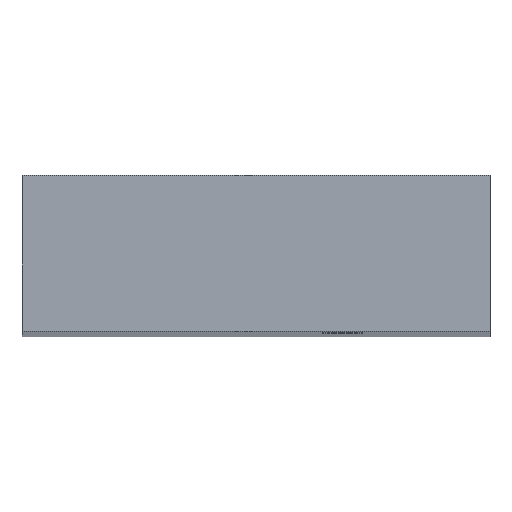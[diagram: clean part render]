
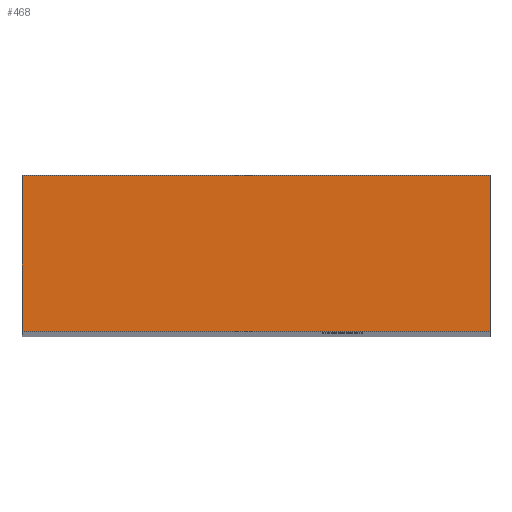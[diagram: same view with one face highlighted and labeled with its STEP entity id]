
A CAD part, top view. The second image highlights one B-rep face of the part: STEP entity #468.
In plain terms, the highlighted planar face has unit normal (0, 0, 1).
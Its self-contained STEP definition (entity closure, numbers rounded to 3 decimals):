
#44 = PLANE('',#45);
#45 = AXIS2_PLACEMENT_3D('',#46,#47,#48);
#46 = CARTESIAN_POINT('',(-80.,34.,140.));
#47 = DIRECTION('',(1.,0.,0.));
#48 = DIRECTION('',(0.,0.,-1.));
#72 = PLANE('',#73);
#73 = AXIS2_PLACEMENT_3D('',#74,#75,#76);
#74 = CARTESIAN_POINT('',(-53.,16.,-30.));
#75 = DIRECTION('',(0.,-1.,0.));
#76 = DIRECTION('',(1.,0.,0.));
#100 = PLANE('',#101);
#101 = AXIS2_PLACEMENT_3D('',#102,#103,#104);
#102 = CARTESIAN_POINT('',(-26.,34.,-200.));
#103 = DIRECTION('',(-1.,0.,0.));
#104 = DIRECTION('',(0.,0.,1.));
#126 = PLANE('',#127);
#127 = AXIS2_PLACEMENT_3D('',#128,#129,#130);
#128 = CARTESIAN_POINT('',(-53.,34.,-30.));
#129 = DIRECTION('',(0.,-1.,0.));
#130 = DIRECTION('',(1.,0.,0.));
#141 = EDGE_CURVE('',#142,#144,#146,.T.);
#142 = VERTEX_POINT('',#143);
#143 = CARTESIAN_POINT('',(-80.,34.,140.));
#144 = VERTEX_POINT('',#145);
#145 = CARTESIAN_POINT('',(-80.,16.,140.));
#146 = SURFACE_CURVE('',#147,(#151,#158),.PCURVE_S1.);
#147 = LINE('',#148,#149);
#148 = CARTESIAN_POINT('',(-80.,34.,140.));
#149 = VECTOR('',#150,1.);
#150 = DIRECTION('',(0.,-1.,0.));
#151 = PCURVE('',#44,#152);
#152 = DEFINITIONAL_REPRESENTATION('',(#153),#157);
#153 = LINE('',#154,#155);
#154 = CARTESIAN_POINT('',(0.,0.));
#155 = VECTOR('',#156,1.);
#156 = DIRECTION('',(0.,-1.));
#157 = ( GEOMETRIC_REPRESENTATION_CONTEXT(2) 
PARAMETRIC_REPRESENTATION_CONTEXT() REPRESENTATION_CONTEXT('2D SPACE',''
  ) );
#158 = PCURVE('',#159,#164);
#159 = PLANE('',#160);
#160 = AXIS2_PLACEMENT_3D('',#161,#162,#163);
#161 = CARTESIAN_POINT('',(-26.,34.,140.));
#162 = DIRECTION('',(0.,0.,-1.));
#163 = DIRECTION('',(-1.,0.,0.));
#164 = DEFINITIONAL_REPRESENTATION('',(#165),#169);
#165 = LINE('',#166,#167);
#166 = CARTESIAN_POINT('',(54.,0.));
#167 = VECTOR('',#168,1.);
#168 = DIRECTION('',(0.,-1.));
#169 = ( GEOMETRIC_REPRESENTATION_CONTEXT(2) 
PARAMETRIC_REPRESENTATION_CONTEXT() REPRESENTATION_CONTEXT('2D SPACE',''
  ) );
#219 = VERTEX_POINT('',#220);
#220 = CARTESIAN_POINT('',(-26.,16.,140.));
#241 = EDGE_CURVE('',#242,#219,#244,.T.);
#242 = VERTEX_POINT('',#243);
#243 = CARTESIAN_POINT('',(-26.,34.,140.));
#244 = SURFACE_CURVE('',#245,(#249,#256),.PCURVE_S1.);
#245 = LINE('',#246,#247);
#246 = CARTESIAN_POINT('',(-26.,34.,140.));
#247 = VECTOR('',#248,1.);
#248 = DIRECTION('',(0.,-1.,0.));
#249 = PCURVE('',#100,#250);
#250 = DEFINITIONAL_REPRESENTATION('',(#251),#255);
#251 = LINE('',#252,#253);
#252 = CARTESIAN_POINT('',(340.,0.));
#253 = VECTOR('',#254,1.);
#254 = DIRECTION('',(0.,-1.));
#255 = ( GEOMETRIC_REPRESENTATION_CONTEXT(2) 
PARAMETRIC_REPRESENTATION_CONTEXT() REPRESENTATION_CONTEXT('2D SPACE',''
  ) );
#256 = PCURVE('',#159,#257);
#257 = DEFINITIONAL_REPRESENTATION('',(#258),#262);
#258 = LINE('',#259,#260);
#259 = CARTESIAN_POINT('',(0.,0.));
#260 = VECTOR('',#261,1.);
#261 = DIRECTION('',(0.,-1.));
#262 = ( GEOMETRIC_REPRESENTATION_CONTEXT(2) 
PARAMETRIC_REPRESENTATION_CONTEXT() REPRESENTATION_CONTEXT('2D SPACE',''
  ) );
#290 = EDGE_CURVE('',#242,#142,#291,.T.);
#291 = SURFACE_CURVE('',#292,(#296,#303),.PCURVE_S1.);
#292 = LINE('',#293,#294);
#293 = CARTESIAN_POINT('',(-26.,34.,140.));
#294 = VECTOR('',#295,1.);
#295 = DIRECTION('',(-1.,0.,0.));
#296 = PCURVE('',#126,#297);
#297 = DEFINITIONAL_REPRESENTATION('',(#298),#302);
#298 = LINE('',#299,#300);
#299 = CARTESIAN_POINT('',(27.,170.));
#300 = VECTOR('',#301,1.);
#301 = DIRECTION('',(-1.,0.));
#302 = ( GEOMETRIC_REPRESENTATION_CONTEXT(2) 
PARAMETRIC_REPRESENTATION_CONTEXT() REPRESENTATION_CONTEXT('2D SPACE',''
  ) );
#303 = PCURVE('',#159,#304);
#304 = DEFINITIONAL_REPRESENTATION('',(#305),#309);
#305 = LINE('',#306,#307);
#306 = CARTESIAN_POINT('',(0.,0.));
#307 = VECTOR('',#308,1.);
#308 = DIRECTION('',(1.,0.));
#309 = ( GEOMETRIC_REPRESENTATION_CONTEXT(2) 
PARAMETRIC_REPRESENTATION_CONTEXT() REPRESENTATION_CONTEXT('2D SPACE',''
  ) );
#387 = EDGE_CURVE('',#219,#144,#388,.T.);
#388 = SURFACE_CURVE('',#389,(#393,#400),.PCURVE_S1.);
#389 = LINE('',#390,#391);
#390 = CARTESIAN_POINT('',(-26.,16.,140.));
#391 = VECTOR('',#392,1.);
#392 = DIRECTION('',(-1.,0.,0.));
#393 = PCURVE('',#72,#394);
#394 = DEFINITIONAL_REPRESENTATION('',(#395),#399);
#395 = LINE('',#396,#397);
#396 = CARTESIAN_POINT('',(27.,170.));
#397 = VECTOR('',#398,1.);
#398 = DIRECTION('',(-1.,0.));
#399 = ( GEOMETRIC_REPRESENTATION_CONTEXT(2) 
PARAMETRIC_REPRESENTATION_CONTEXT() REPRESENTATION_CONTEXT('2D SPACE',''
  ) );
#400 = PCURVE('',#159,#401);
#401 = DEFINITIONAL_REPRESENTATION('',(#402),#406);
#402 = LINE('',#403,#404);
#403 = CARTESIAN_POINT('',(0.,-18.));
#404 = VECTOR('',#405,1.);
#405 = DIRECTION('',(1.,0.));
#406 = ( GEOMETRIC_REPRESENTATION_CONTEXT(2) 
PARAMETRIC_REPRESENTATION_CONTEXT() REPRESENTATION_CONTEXT('2D SPACE',''
  ) );
#468 = ADVANCED_FACE('',(#469),#159,.F.);
#469 = FACE_BOUND('',#470,.F.);
#470 = EDGE_LOOP('',(#471,#472,#473,#474));
#471 = ORIENTED_EDGE('',*,*,#241,.T.);
#472 = ORIENTED_EDGE('',*,*,#387,.T.);
#473 = ORIENTED_EDGE('',*,*,#141,.F.);
#474 = ORIENTED_EDGE('',*,*,#290,.F.);
